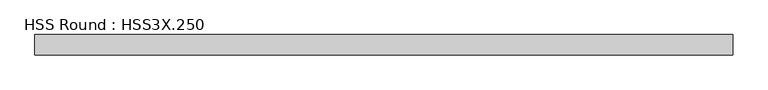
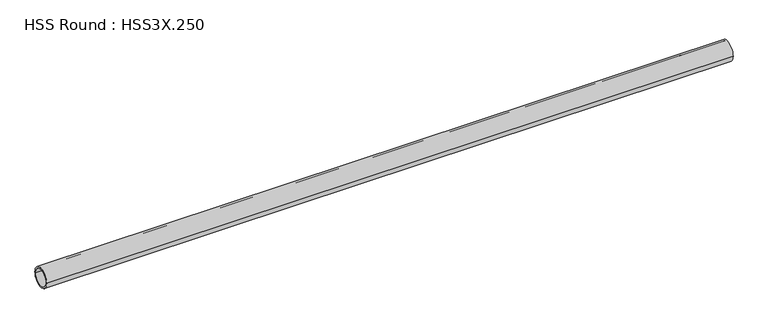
"""IFC4 building model written with IfcOpenShell, lengths in millimetres: member geometry, HSS Round : HSS3X.250."""

from ifc_helpers import new_model, si_unit, point, frame, origin, origin_2d, place, context, project, spatial, circle_curve, trimmed, segment, composite_curve, outline, extrude, source, transform, mapped, element, save


def hss_round_hss3x_250_6b2ee398(model_context):
    return source(origin(), model_context, "Body", "SweptSolid", [
        extrude(outline(composite_curve([segment(trimmed(circle_curve(origin_2d(), 38.1), [point((-38.1, 0.0))], [point((38.1, 0.0))], False, "CARTESIAN"), True, "CONTINUOUS"), segment(trimmed(circle_curve(origin_2d(), 38.1), [point((38.1, 0.0))], [point((-38.1, 0.0))], False, "CARTESIAN"), True, "CONTINUOUS")], self_intersect=False), holes=[composite_curve([segment(trimmed(circle_curve(origin_2d(), 31.75), [point((31.75, 0.0))], [point((-31.75, 0.0))], True, "CARTESIAN"), True, "CONTINUOUS"), segment(trimmed(circle_curve(origin_2d(), 31.75), [point((-31.75, 0.0))], [point((31.75, 0.0))], True, "CARTESIAN"), True, "CONTINUOUS")], self_intersect=False)]), frame((-1264.9362187, 0.0, 0.0), z_axis=(1.0, 0.0, 0.0), x_axis=(0.0, 1.0, 0.0)), (0.0, 0.0, 1.0), 2587.8037123),
    ])


if __name__ == "__main__":
    model = new_model("IFC4")
    model_context = context("Model", 3, world=origin())
    ifc_project = project(units=[si_unit("LENGTHUNIT", "METRE", prefix="MILLI")], contexts=[model_context])
    site = spatial("IfcSite", under=ifc_project)
    building = spatial("IfcBuilding", under=site)
    placement = place(None, origin())
    hss_round_hss3x_250_shape = hss_round_hss3x_250_6b2ee398(model_context)
    element("IfcMember", 1, ObjectType="HSS Round : HSS3X.250", at=placement, inside=building, context=model_context, shape_type="MappedRepresentation", body=[
        mapped(hss_round_hss3x_250_shape, transform((0.0, 0.0, 0.0), x_axis=(1.0, 0.0, 0.0), y_axis=(0.0, 1.0, 0.0), z_axis=(0.0, 0.0, 1.0))),
    ])
    save(model, "model.ifc")
